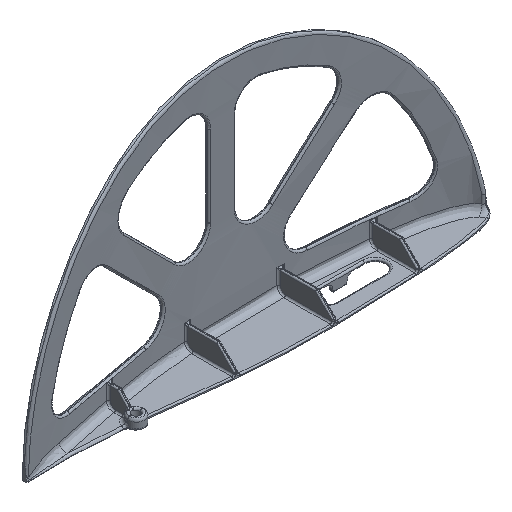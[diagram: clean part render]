
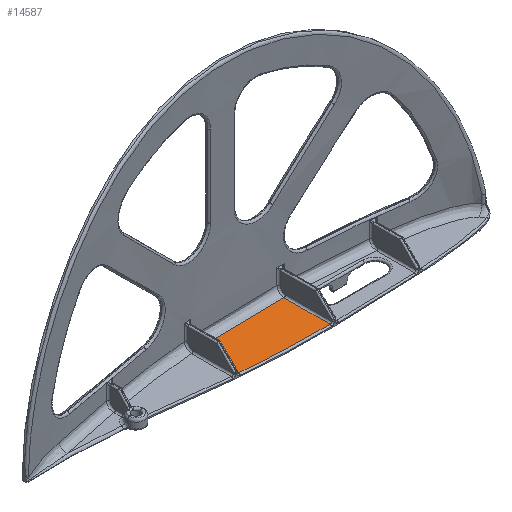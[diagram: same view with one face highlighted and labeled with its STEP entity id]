
A CAD part, isometric view. The second image highlights one B-rep face of the part: STEP entity #14587.
In plain terms, the highlighted planar face has unit normal (0, 0, 1).
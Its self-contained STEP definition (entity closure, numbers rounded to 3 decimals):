
#40 = ORIENTED_EDGE ( 'NONE', *, *, #7945, .T. ) ;
#230 = EDGE_LOOP ( 'NONE', ( #8008, #2012, #40, #12664 ) ) ;
#266 = CARTESIAN_POINT ( 'NONE',  ( 57.5, 0., 0.7 ) ) ;
#655 = B_SPLINE_CURVE_WITH_KNOTS ( 'NONE', 3,
 ( #1739, #7577, #11124, #12121, #12257, #11071, #7677, #8737 ),
 .UNSPECIFIED., .F., .F.,
 ( 4, 2, 2, 4 ),
 ( 0., 0.013, 0.019, 0.025 ),
 .UNSPECIFIED. ) ;
#817 = B_SPLINE_CURVE_WITH_KNOTS ( 'NONE', 3,
 ( #14103, #6020, #14053, #10590 ),
 .UNSPECIFIED., .F., .F.,
 ( 4, 4 ),
 ( 0.001, 0.026 ),
 .UNSPECIFIED. ) ;
#1389 = DIRECTION ( 'NONE',  ( 0., -1., 0. ) ) ;
#1687 = VERTEX_POINT ( 'NONE', #8091 ) ;
#1739 = CARTESIAN_POINT ( 'NONE',  ( 57.5, -5.005, 0.7 ) ) ;
#2012 = ORIENTED_EDGE ( 'NONE', *, *, #10875, .T. ) ;
#3193 = AXIS2_PLACEMENT_3D ( 'NONE', #7024, #9363, #9311 ) ;
#3286 = VECTOR ( 'NONE', #1389, 1000. ) ;
#4001 = CARTESIAN_POINT ( 'NONE',  ( 82.771, 7.304, 0.7 ) ) ;
#5898 = PLANE ( 'NONE',  #3193 ) ;
#6020 = CARTESIAN_POINT ( 'NONE',  ( 74.344, 7.523, 0.7 ) ) ;
#6382 = VERTEX_POINT ( 'NONE', #13120 ) ;
#6825 = CARTESIAN_POINT ( 'NONE',  ( 82.771, 0., 0.7 ) ) ;
#6960 = VECTOR ( 'NONE', #10211, 1000. ) ;
#7024 = CARTESIAN_POINT ( 'NONE',  ( 0., 0., 0.7 ) ) ;
#7159 = EDGE_CURVE ( 'NONE', #13105, #6382, #13150, .T. ) ;
#7577 = CARTESIAN_POINT ( 'NONE',  ( 61.703, -5.395, 0.7 ) ) ;
#7677 = CARTESIAN_POINT ( 'NONE',  ( 80.662, -6.018, 0.7 ) ) ;
#7945 = EDGE_CURVE ( 'NONE', #1687, #8844, #11123, .T. ) ;
#8008 = ORIENTED_EDGE ( 'NONE', *, *, #7159, .T. ) ;
#8091 = CARTESIAN_POINT ( 'NONE',  ( 82.771, -6.005, 0.7 ) ) ;
#8737 = CARTESIAN_POINT ( 'NONE',  ( 82.771, -6.005, 0.7 ) ) ;
#8844 = VERTEX_POINT ( 'NONE', #4001 ) ;
#9311 = DIRECTION ( 'NONE',  ( -1., 0., 0. ) ) ;
#9363 = DIRECTION ( 'NONE',  ( 0., 0., -1. ) ) ;
#9594 = FACE_OUTER_BOUND ( 'NONE', #230, .T. ) ;
#10211 = DIRECTION ( 'NONE',  ( 0., 1., 0. ) ) ;
#10590 = CARTESIAN_POINT ( 'NONE',  ( 57.5, 6.832, 0.7 ) ) ;
#10840 = CARTESIAN_POINT ( 'NONE',  ( 57.5, 6.832, 0.7 ) ) ;
#10875 = EDGE_CURVE ( 'NONE', #6382, #1687, #655, .T. ) ;
#11071 = CARTESIAN_POINT ( 'NONE',  ( 78.552, -6.018, 0.7 ) ) ;
#11123 = LINE ( 'NONE', #6825, #6960 ) ;
#11124 = CARTESIAN_POINT ( 'NONE',  ( 65.91, -5.68, 0.7 ) ) ;
#12121 = CARTESIAN_POINT ( 'NONE',  ( 72.228, -5.923, 0.7 ) ) ;
#12257 = CARTESIAN_POINT ( 'NONE',  ( 74.336, -5.972, 0.7 ) ) ;
#12393 = EDGE_CURVE ( 'NONE', #8844, #13105, #817, .T. ) ;
#12664 = ORIENTED_EDGE ( 'NONE', *, *, #12393, .T. ) ;
#13105 = VERTEX_POINT ( 'NONE', #10840 ) ;
#13120 = CARTESIAN_POINT ( 'NONE',  ( 57.5, -5.005, 0.7 ) ) ;
#13150 = LINE ( 'NONE', #266, #3286 ) ;
#14053 = CARTESIAN_POINT ( 'NONE',  ( 65.909, 7.426, 0.7 ) ) ;
#14103 = CARTESIAN_POINT ( 'NONE',  ( 82.771, 7.304, 0.7 ) ) ;
#14587 = ADVANCED_FACE ( 'NONE', ( #9594 ), #5898, .F. ) ;
